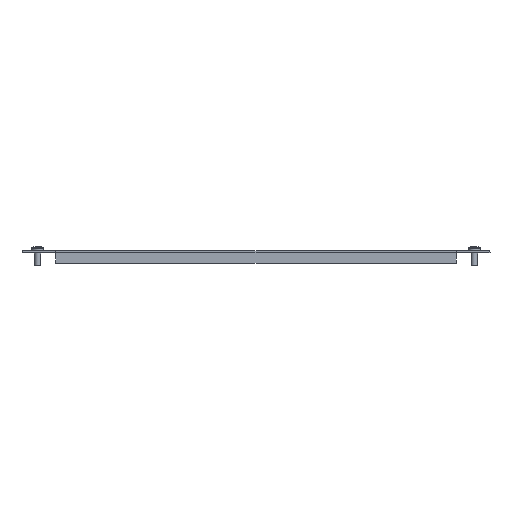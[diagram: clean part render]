
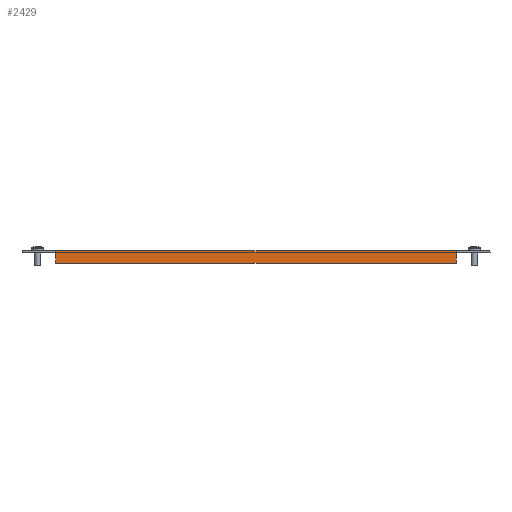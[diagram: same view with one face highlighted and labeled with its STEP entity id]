
A CAD part, front view. The second image highlights one B-rep face of the part: STEP entity #2429.
In plain terms, the highlighted planar face has unit normal (0, -1, 0).
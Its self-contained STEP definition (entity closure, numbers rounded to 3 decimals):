
#206 = CARTESIAN_POINT ( 'NONE',  ( 0., -299., 0. ) ) ;
#265 = LINE ( 'NONE', #206, #5172 ) ;
#275 = DIRECTION ( 'NONE',  ( 0., 0., 1. ) ) ;
#279 = EDGE_LOOP ( 'NONE', ( #1428, #515, #2209, #2952, #5363, #3146 ) ) ;
#444 = CARTESIAN_POINT ( 'NONE',  ( 160.5, -299., -10. ) ) ;
#515 = ORIENTED_EDGE ( 'NONE', *, *, #5168, .T. ) ;
#742 = CARTESIAN_POINT ( 'NONE',  ( -160.5, -299., 0. ) ) ;
#748 = VECTOR ( 'NONE', #918, 1000. ) ;
#880 = CARTESIAN_POINT ( 'NONE',  ( -160.5, -299., -1.8 ) ) ;
#918 = DIRECTION ( 'NONE',  ( -1., 0., 0. ) ) ;
#1104 = AXIS2_PLACEMENT_3D ( 'NONE', #5194, #4778, #5147 ) ;
#1361 = EDGE_CURVE ( 'NONE', #5206, #2146, #2884, .T. ) ;
#1428 = ORIENTED_EDGE ( 'NONE', *, *, #1606, .F. ) ;
#1496 = VERTEX_POINT ( 'NONE', #444 ) ;
#1514 = DIRECTION ( 'NONE',  ( -1., 0., 0. ) ) ;
#1606 = EDGE_CURVE ( 'NONE', #2008, #1496, #3022, .T. ) ;
#1757 = LINE ( 'NONE', #880, #1938 ) ;
#1881 = VECTOR ( 'NONE', #275, 1000. ) ;
#1935 = EDGE_CURVE ( 'NONE', #4603, #5206, #1757, .T. ) ;
#1938 = VECTOR ( 'NONE', #2571, 1000. ) ;
#1942 = CARTESIAN_POINT ( 'NONE',  ( 160.5, -299., 0. ) ) ;
#1974 = CARTESIAN_POINT ( 'NONE',  ( -160.5, -299., -2.4 ) ) ;
#1989 = DIRECTION ( 'NONE',  ( 0., 0., 1. ) ) ;
#2008 = VERTEX_POINT ( 'NONE', #4832 ) ;
#2146 = VERTEX_POINT ( 'NONE', #4283 ) ;
#2209 = ORIENTED_EDGE ( 'NONE', *, *, #5466, .T. ) ;
#2390 = LINE ( 'NONE', #4083, #1881 ) ;
#2429 = ADVANCED_FACE ( 'NONE', ( #5222 ), #3445, .T. ) ;
#2430 = EDGE_CURVE ( 'NONE', #1496, #4603, #2699, .T. ) ;
#2517 = CARTESIAN_POINT ( 'NONE',  ( -160.5, -299., -10. ) ) ;
#2571 = DIRECTION ( 'NONE',  ( 0., 0., 1. ) ) ;
#2699 = LINE ( 'NONE', #4390, #748 ) ;
#2884 = LINE ( 'NONE', #742, #4285 ) ;
#2952 = ORIENTED_EDGE ( 'NONE', *, *, #1361, .F. ) ;
#3022 = LINE ( 'NONE', #4248, #4053 ) ;
#3146 = ORIENTED_EDGE ( 'NONE', *, *, #2430, .F. ) ;
#3445 = PLANE ( 'NONE',  #1104 ) ;
#3831 = DIRECTION ( 'NONE',  ( 0., 0., -1. ) ) ;
#4053 = VECTOR ( 'NONE', #3831, 1000. ) ;
#4083 = CARTESIAN_POINT ( 'NONE',  ( 160.5, -299., -2.4 ) ) ;
#4248 = CARTESIAN_POINT ( 'NONE',  ( 160.5, -299., -10. ) ) ;
#4283 = CARTESIAN_POINT ( 'NONE',  ( -160.5, -299., 0. ) ) ;
#4285 = VECTOR ( 'NONE', #1989, 1000. ) ;
#4390 = CARTESIAN_POINT ( 'NONE',  ( -160.5, -299., -10. ) ) ;
#4603 = VERTEX_POINT ( 'NONE', #2517 ) ;
#4778 = DIRECTION ( 'NONE',  ( 0., -1., 0. ) ) ;
#4832 = CARTESIAN_POINT ( 'NONE',  ( 160.5, -299., -2.4 ) ) ;
#5072 = VERTEX_POINT ( 'NONE', #1942 ) ;
#5147 = DIRECTION ( 'NONE',  ( 1., 0., 0. ) ) ;
#5168 = EDGE_CURVE ( 'NONE', #2008, #5072, #2390, .T. ) ;
#5172 = VECTOR ( 'NONE', #1514, 1000. ) ;
#5194 = CARTESIAN_POINT ( 'NONE',  ( 0., -299., 0. ) ) ;
#5206 = VERTEX_POINT ( 'NONE', #1974 ) ;
#5222 = FACE_OUTER_BOUND ( 'NONE', #279, .T. ) ;
#5363 = ORIENTED_EDGE ( 'NONE', *, *, #1935, .F. ) ;
#5466 = EDGE_CURVE ( 'NONE', #5072, #2146, #265, .T. ) ;
